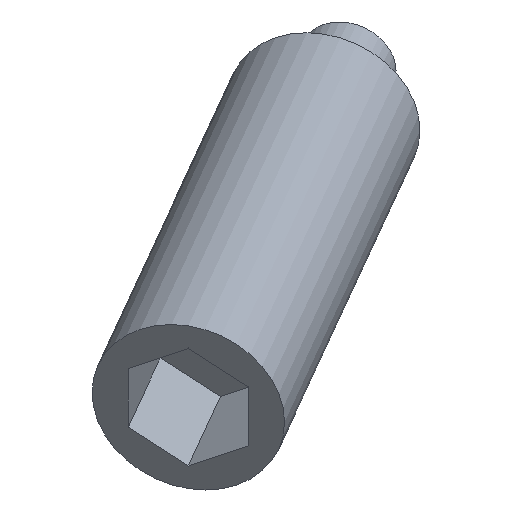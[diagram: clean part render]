
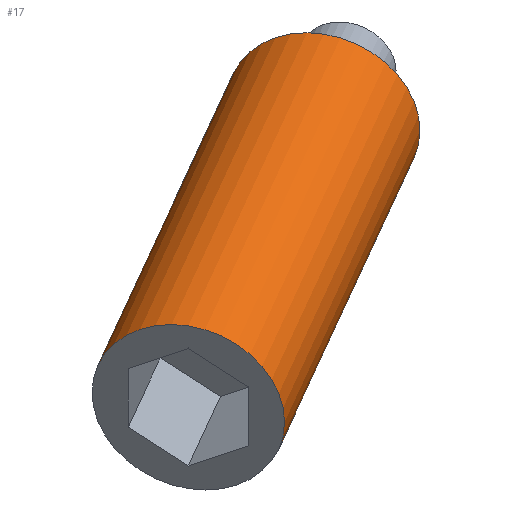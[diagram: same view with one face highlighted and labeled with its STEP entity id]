
A CAD part, isometric view. The second image highlights one B-rep face of the part: STEP entity #17.
In plain terms, the highlighted cylindrical face has radius 0.8 mm (diameter 1.6 mm), a full revolution.
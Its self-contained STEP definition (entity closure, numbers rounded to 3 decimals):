
#17 = ADVANCED_FACE('',(#18),#31,.T.);
#18 = FACE_BOUND('',#19,.T.);
#19 = EDGE_LOOP('',(#20,#54,#77,#104));
#20 = ORIENTED_EDGE('',*,*,#21,.F.);
#21 = EDGE_CURVE('',#22,#22,#24,.T.);
#22 = VERTEX_POINT('',#23);
#23 = CARTESIAN_POINT('',(-16.628,-9.6,12.));
#24 = SURFACE_CURVE('',#25,(#30,#42),.PCURVE_S1.);
#25 = CIRCLE('',#26,0.8);
#26 = AXIS2_PLACEMENT_3D('',#27,#28,#29);
#27 = CARTESIAN_POINT('',(-16.628,-9.6,11.2));
#28 = DIRECTION('',(-0.866,-0.5,0.));
#29 = DIRECTION('',(0.,0.,1.));
#30 = PCURVE('',#31,#36);
#31 = CYLINDRICAL_SURFACE('',#32,0.8);
#32 = AXIS2_PLACEMENT_3D('',#33,#34,#35);
#33 = CARTESIAN_POINT('',(-12.99,-7.5,11.2));
#34 = DIRECTION('',(-0.866,-0.5,0.));
#35 = DIRECTION('',(0.,0.,1.));
#36 = DEFINITIONAL_REPRESENTATION('',(#37),#41);
#37 = LINE('',#38,#39);
#38 = CARTESIAN_POINT('',(0.,4.2));
#39 = VECTOR('',#40,1.);
#40 = DIRECTION('',(1.,0.));
#41 = ( GEOMETRIC_REPRESENTATION_CONTEXT(2) 
PARAMETRIC_REPRESENTATION_CONTEXT() REPRESENTATION_CONTEXT('2D SPACE',''
  ) );
#42 = PCURVE('',#43,#48);
#43 = PLANE('',#44);
#44 = AXIS2_PLACEMENT_3D('',#45,#46,#47);
#45 = CARTESIAN_POINT('',(-16.628,-9.6,11.2));
#46 = DIRECTION('',(-0.866,-0.5,0.));
#47 = DIRECTION('',(0.,0.,1.));
#48 = DEFINITIONAL_REPRESENTATION('',(#49),#53);
#49 = CIRCLE('',#50,0.8);
#50 = AXIS2_PLACEMENT_2D('',#51,#52);
#51 = CARTESIAN_POINT('',(0.,0.));
#52 = DIRECTION('',(1.,0.));
#53 = ( GEOMETRIC_REPRESENTATION_CONTEXT(2) 
PARAMETRIC_REPRESENTATION_CONTEXT() REPRESENTATION_CONTEXT('2D SPACE',''
  ) );
#54 = ORIENTED_EDGE('',*,*,#55,.F.);
#55 = EDGE_CURVE('',#56,#22,#58,.T.);
#56 = VERTEX_POINT('',#57);
#57 = CARTESIAN_POINT('',(-12.99,-7.5,12.));
#58 = SEAM_CURVE('',#59,(#63,#70),.PCURVE_S1.);
#59 = LINE('',#60,#61);
#60 = CARTESIAN_POINT('',(-12.99,-7.5,12.));
#61 = VECTOR('',#62,1.);
#62 = DIRECTION('',(-0.866,-0.5,0.));
#63 = PCURVE('',#31,#64);
#64 = DEFINITIONAL_REPRESENTATION('',(#65),#69);
#65 = LINE('',#66,#67);
#66 = CARTESIAN_POINT('',(6.283,-0.));
#67 = VECTOR('',#68,1.);
#68 = DIRECTION('',(0.,1.));
#69 = ( GEOMETRIC_REPRESENTATION_CONTEXT(2) 
PARAMETRIC_REPRESENTATION_CONTEXT() REPRESENTATION_CONTEXT('2D SPACE',''
  ) );
#70 = PCURVE('',#31,#71);
#71 = DEFINITIONAL_REPRESENTATION('',(#72),#76);
#72 = LINE('',#73,#74);
#73 = CARTESIAN_POINT('',(0.,-0.));
#74 = VECTOR('',#75,1.);
#75 = DIRECTION('',(0.,1.));
#76 = ( GEOMETRIC_REPRESENTATION_CONTEXT(2) 
PARAMETRIC_REPRESENTATION_CONTEXT() REPRESENTATION_CONTEXT('2D SPACE',''
  ) );
#77 = ORIENTED_EDGE('',*,*,#78,.T.);
#78 = EDGE_CURVE('',#56,#56,#79,.T.);
#79 = SURFACE_CURVE('',#80,(#85,#92),.PCURVE_S1.);
#80 = CIRCLE('',#81,0.8);
#81 = AXIS2_PLACEMENT_3D('',#82,#83,#84);
#82 = CARTESIAN_POINT('',(-12.99,-7.5,11.2));
#83 = DIRECTION('',(-0.866,-0.5,0.));
#84 = DIRECTION('',(0.,0.,1.));
#85 = PCURVE('',#31,#86);
#86 = DEFINITIONAL_REPRESENTATION('',(#87),#91);
#87 = LINE('',#88,#89);
#88 = CARTESIAN_POINT('',(0.,0.));
#89 = VECTOR('',#90,1.);
#90 = DIRECTION('',(1.,0.));
#91 = ( GEOMETRIC_REPRESENTATION_CONTEXT(2) 
PARAMETRIC_REPRESENTATION_CONTEXT() REPRESENTATION_CONTEXT('2D SPACE',''
  ) );
#92 = PCURVE('',#93,#98);
#93 = PLANE('',#94);
#94 = AXIS2_PLACEMENT_3D('',#95,#96,#97);
#95 = CARTESIAN_POINT('',(-12.99,-7.5,11.2));
#96 = DIRECTION('',(-0.866,-0.5,0.));
#97 = DIRECTION('',(0.,0.,1.));
#98 = DEFINITIONAL_REPRESENTATION('',(#99),#103);
#99 = CIRCLE('',#100,0.8);
#100 = AXIS2_PLACEMENT_2D('',#101,#102);
#101 = CARTESIAN_POINT('',(0.,0.));
#102 = DIRECTION('',(1.,0.));
#103 = ( GEOMETRIC_REPRESENTATION_CONTEXT(2) 
PARAMETRIC_REPRESENTATION_CONTEXT() REPRESENTATION_CONTEXT('2D SPACE',''
  ) );
#104 = ORIENTED_EDGE('',*,*,#55,.T.);
